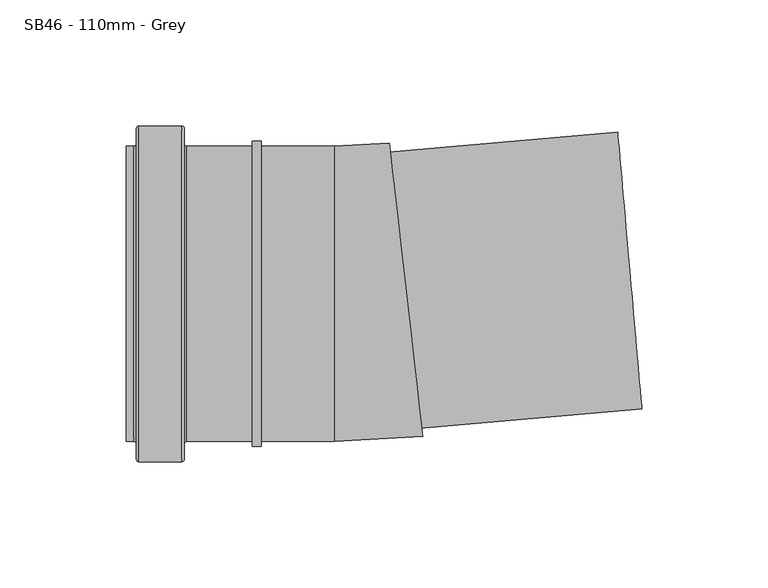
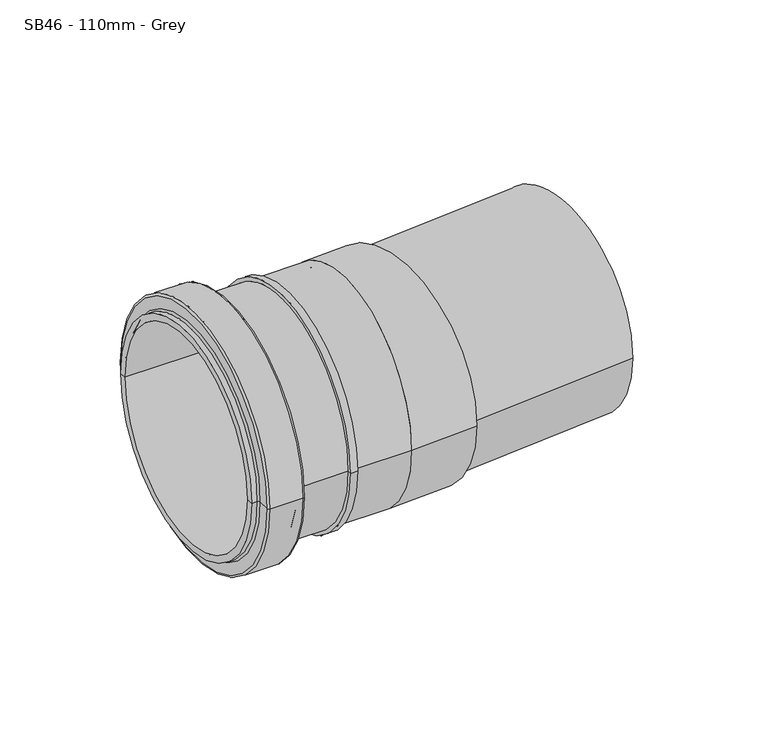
"""IFC4 building model written with IfcOpenShell, lengths in millimetres: pipe fitting geometry, MarleyPlumbingAndDrainage_PipeFitting_Bend_(5-14) : SB46 - 110mm - Grey."""

from ifc_helpers import new_model, si_unit, point, frame, origin, place, context, project, spatial, polyline, circle_curve, ellipse_curve, trimmed, source, transform, mapped, element, save
from ifc_brep_helpers import plane_surface, cylinder_surface, revolved_surface, advanced_brep


def sb46_110mm_grey_d59ce767(model_context):
    return source(origin(), model_context, "Body", "AdvancedBrep", [
        advanced_brep(
        [(-108.1820238, 55.0, 0.0), (-108.1820238, -55.0, 0.0), (-108.1820238, -58.5, 0.0), (-108.1820238, 58.5, 0.0), (-25.6820238, 55.0, 0.0), (-25.6820238, -55.0, 0.0), (-25.6820238, 58.5, 0.0), (-25.6820238, -58.5, 0.0), (-54.6820238, 58.5, 0.0), (-54.6820238, -58.5, 0.0), (-54.6820238, 60.5, 0.0), (-54.6820238, -60.5, 0.0), (-58.1820238, 60.5, 0.0), (-58.1820238, -60.5, 0.0), (-58.1820238, 58.5, 0.0), (-58.1820238, -58.5, 0.0), (-84.1820238, 58.5, 0.0), (-84.1820238, -58.5, 0.0), (-85.1820238, 59.5, 0.0), (-85.1820238, -59.5, 0.0), (-85.1820238, 65.5, 0.0), (-85.1820238, -65.5, 0.0), (-86.1820238, 66.5, 0.0), (-86.1820238, -66.5, 0.0), (-103.1820238, 66.5, 0.0), (-103.1820238, -66.5, 0.0), (-104.1820238, 65.5, 0.0), (-104.1820238, -65.5, 0.0), (-104.1820238, 59.5, 0.0), (-104.1820238, -59.5, 0.0), (-105.1820238, 58.5, 0.0), (-105.1820238, -58.5, 0.0)],
        [
            (0, 1, circle_curve(frame((-108.1820238, 0.0, 0.0), z_axis=(1.0, 0.0, 0.0), x_axis=(0.0, -1.0, 0.0)), 55.0)),
            (1, 2),
            (2, 3, circle_curve(frame((-108.1820238, 0.0, 0.0), z_axis=(-1.0, 0.0, 0.0), x_axis=(0.0, -1.0, 0.0)), 58.5)),
            (3, 0),
            (1, 0, circle_curve(frame((-108.1820238, 0.0, 0.0), z_axis=(1.0, 0.0, 0.0), x_axis=(0.0, -1.0, 0.0)), 55.0)),
            (3, 2, circle_curve(frame((-108.1820238, 0.0, 0.0), z_axis=(-1.0, 0.0, 0.0), x_axis=(0.0, -1.0, 0.0)), 58.5)),
            (4, 5, circle_curve(frame((-25.6820238, 0.0, 0.0), z_axis=(1.0, 0.0, 0.0), x_axis=(0.0, -1.0, 0.0)), 55.0)),
            (5, 1),
            (0, 4),
            (5, 4, circle_curve(frame((-25.6820238, 0.0, 0.0), z_axis=(1.0, 0.0, 0.0), x_axis=(0.0, -1.0, 0.0)), 55.0)),
            (6, 7, circle_curve(frame((-25.6820238, 0.0, 0.0), z_axis=(1.0, 0.0, 0.0), x_axis=(0.0, -1.0, 0.0)), 58.5)),
            (7, 5),
            (4, 6),
            (7, 6, circle_curve(frame((-25.6820238, 0.0, 0.0), z_axis=(1.0, 0.0, 0.0), x_axis=(0.0, -1.0, 0.0)), 58.5)),
            (8, 9, circle_curve(frame((-54.6820238, 0.0, 0.0), z_axis=(1.0, 0.0, 0.0), x_axis=(0.0, -1.0, 0.0)), 58.5)),
            (9, 7),
            (6, 8),
            (9, 8, circle_curve(frame((-54.6820238, 0.0, 0.0), z_axis=(1.0, 0.0, 0.0), x_axis=(0.0, -1.0, 0.0)), 58.5)),
            (10, 11, circle_curve(frame((-54.6820238, 0.0, 0.0), z_axis=(1.0, 0.0, 0.0), x_axis=(0.0, -1.0, 0.0)), 60.5)),
            (11, 9),
            (8, 10),
            (11, 10, circle_curve(frame((-54.6820238, 0.0, 0.0), z_axis=(1.0, 0.0, 0.0), x_axis=(0.0, -1.0, 0.0)), 60.5)),
            (12, 13, circle_curve(frame((-58.1820238, 0.0, 0.0), z_axis=(1.0, 0.0, 0.0), x_axis=(0.0, -1.0, 0.0)), 60.5)),
            (13, 11),
            (10, 12),
            (13, 12, circle_curve(frame((-58.1820238, 0.0, 0.0), z_axis=(1.0, 0.0, 0.0), x_axis=(0.0, -1.0, 0.0)), 60.5)),
            (14, 15, circle_curve(frame((-58.1820238, 0.0, 0.0), z_axis=(1.0, 0.0, 0.0), x_axis=(0.0, -1.0, 0.0)), 58.5)),
            (15, 13),
            (12, 14),
            (15, 14, circle_curve(frame((-58.1820238, 0.0, 0.0), z_axis=(1.0, 0.0, 0.0), x_axis=(0.0, -1.0, 0.0)), 58.5)),
            (16, 17, circle_curve(frame((-84.1820238, 0.0, 0.0), z_axis=(1.0, 0.0, 0.0), x_axis=(0.0, -1.0, 0.0)), 58.5)),
            (17, 15),
            (14, 16),
            (17, 16, circle_curve(frame((-84.1820238, 0.0, 0.0), z_axis=(1.0, 0.0, 0.0), x_axis=(0.0, -1.0, 0.0)), 58.5)),
            (18, 19, circle_curve(frame((-85.1820238, 0.0, 0.0), z_axis=(1.0, 0.0, 0.0), x_axis=(0.0, -1.0, 0.0)), 59.5)),
            (19, 17, circle_curve(frame((-84.1820238, -59.5, 0.0), z_axis=(0.0, 0.0, -1.0), x_axis=(0.0, -1.0, 0.0)), 1.0)),
            (16, 18, circle_curve(frame((-84.1820238, 59.5, 0.0), z_axis=(0.0, 0.0, -1.0), x_axis=(0.0, 1.0, 0.0)), 1.0)),
            (19, 18, circle_curve(frame((-85.1820238, 0.0, 0.0), z_axis=(1.0, 0.0, 0.0), x_axis=(0.0, -1.0, 0.0)), 59.5)),
            (20, 21, circle_curve(frame((-85.1820238, 0.0, 0.0), z_axis=(1.0, 0.0, 0.0), x_axis=(0.0, -1.0, 0.0)), 65.5)),
            (21, 19),
            (18, 20),
            (21, 20, circle_curve(frame((-85.1820238, 0.0, 0.0), z_axis=(1.0, 0.0, 0.0), x_axis=(0.0, -1.0, 0.0)), 65.5)),
            (22, 23, circle_curve(frame((-86.1820238, 0.0, 0.0), z_axis=(1.0, 0.0, 0.0), x_axis=(0.0, -1.0, 0.0)), 66.5)),
            (23, 21, circle_curve(frame((-86.1820238, -65.5, 0.0), z_axis=(0.0, 0.0, 1.0), x_axis=(0.0, -1.0, 0.0)), 1.0)),
            (20, 22, circle_curve(frame((-86.1820238, 65.5, 0.0), z_axis=(0.0, 0.0, 1.0), x_axis=(0.0, 1.0, 0.0)), 1.0)),
            (23, 22, circle_curve(frame((-86.1820238, 0.0, 0.0), z_axis=(1.0, 0.0, 0.0), x_axis=(0.0, -1.0, 0.0)), 66.5)),
            (24, 25, circle_curve(frame((-103.1820238, 0.0, 0.0), z_axis=(1.0, 0.0, 0.0), x_axis=(0.0, -1.0, 0.0)), 66.5)),
            (25, 23),
            (22, 24),
            (25, 24, circle_curve(frame((-103.1820238, 0.0, 0.0), z_axis=(1.0, 0.0, 0.0), x_axis=(0.0, -1.0, 0.0)), 66.5)),
            (26, 27, circle_curve(frame((-104.1820238, 0.0, 0.0), z_axis=(1.0, 0.0, 0.0), x_axis=(0.0, -1.0, 0.0)), 65.5)),
            (27, 25, circle_curve(frame((-103.1820238, -65.5, 0.0), z_axis=(0.0, 0.0, 1.0), x_axis=(0.0, -1.0, 0.0)), 1.0)),
            (24, 26, circle_curve(frame((-103.1820238, 65.5, 0.0), z_axis=(0.0, 0.0, 1.0), x_axis=(0.0, 1.0, 0.0)), 1.0)),
            (27, 26, circle_curve(frame((-104.1820238, 0.0, 0.0), z_axis=(1.0, 0.0, 0.0), x_axis=(0.0, -1.0, 0.0)), 65.5)),
            (28, 29, circle_curve(frame((-104.1820238, 0.0, 0.0), z_axis=(1.0, 0.0, 0.0), x_axis=(0.0, -1.0, 0.0)), 59.5)),
            (29, 27),
            (26, 28),
            (29, 28, circle_curve(frame((-104.1820238, 0.0, 0.0), z_axis=(1.0, 0.0, 0.0), x_axis=(0.0, -1.0, 0.0)), 59.5)),
            (30, 31, circle_curve(frame((-105.1820238, 0.0, 0.0), z_axis=(1.0, 0.0, 0.0), x_axis=(0.0, -1.0, 0.0)), 58.5)),
            (31, 29, circle_curve(frame((-105.1820238, -59.5, 0.0), z_axis=(0.0, 0.0, -1.0), x_axis=(0.0, -1.0, 0.0)), 1.0)),
            (28, 30, circle_curve(frame((-105.1820238, 59.5, 0.0), z_axis=(0.0, 0.0, -1.0), x_axis=(0.0, 1.0, 0.0)), 1.0)),
            (31, 30, circle_curve(frame((-105.1820238, 0.0, 0.0), z_axis=(1.0, 0.0, 0.0), x_axis=(0.0, -1.0, 0.0)), 58.5)),
            (2, 31),
            (30, 3),
        ],
        [
            plane_surface(frame((-108.1820238, 0.0, 0.0), z_axis=(-1.0, 0.0, 0.0), x_axis=(0.0, -1.0, 0.0))),
            revolved_surface(polyline([(-108.18202380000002, -55.0, 0.0), (-25.682023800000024, -55.0, 0.0)]), (-1958.9431673, 0.0, 0.0), (-1.0, 0.0, 0.0)),
            plane_surface(frame((-25.6820238, 0.0, 0.0), z_axis=(1.0, 0.0, 0.0), x_axis=(0.0, -1.0, 0.0))),
            cylinder_surface(frame((-1958.9431673, 0.0, 0.0), z_axis=(-1.0, 0.0, 0.0), x_axis=(0.0, -1.0, 0.0)), 58.5),
            plane_surface(frame((-54.6820238, 0.0, 0.0), z_axis=(1.0, 0.0, 0.0), x_axis=(0.0, -1.0, 0.0))),
            cylinder_surface(frame((-1958.9431673, 0.0, 0.0), z_axis=(-1.0, 0.0, 0.0), x_axis=(0.0, -1.0, 0.0)), 60.5),
            plane_surface(frame((-58.1820238, 0.0, 0.0), z_axis=(-1.0, 0.0, 0.0), x_axis=(0.0, -1.0, 0.0))),
            revolved_surface(trimmed(ellipse_curve(frame((-84.1820238, -59.5, 0.0), z_axis=(0.0, 0.0, 1.0), x_axis=(0.0, -1.0, 0.0)), 1.0, 1.0), [point((-84.1820238, -58.5, 0.0))], [point((-85.1820238, -59.5, 0.0))], True, "CARTESIAN"), (-1958.9431673, 0.0, 0.0), (-1.0, 0.0, 0.0)),
            plane_surface(frame((-85.1820238, 0.0, 0.0), z_axis=(1.0, 0.0, 0.0), x_axis=(0.0, -1.0, 0.0))),
            revolved_surface(trimmed(ellipse_curve(frame((-86.1820238, -65.5, 0.0), z_axis=(0.0, 0.0, -1.0), x_axis=(0.0, -1.0, 0.0)), 1.0, 1.0), [point((-85.1820238, -65.5, 0.0))], [point((-86.1820238, -66.5, 0.0))], True, "CARTESIAN"), (-1958.9431673, 0.0, 0.0), (-1.0, 0.0, 0.0)),
            cylinder_surface(frame((-1958.9431673, 0.0, 0.0), z_axis=(-1.0, 0.0, 0.0), x_axis=(0.0, -1.0, 0.0)), 66.5),
            revolved_surface(trimmed(ellipse_curve(frame((-103.1820238, -65.5, 0.0), z_axis=(0.0, 0.0, -1.0), x_axis=(0.0, -1.0, 0.0)), 1.0, 1.0), [point((-103.1820238, -66.5, 0.0))], [point((-104.1820238, -65.5, 0.0))], True, "CARTESIAN"), (-1958.9431673, 0.0, 0.0), (-1.0, 0.0, 0.0)),
            plane_surface(frame((-104.1820238, 0.0, 0.0), z_axis=(-1.0, 0.0, 0.0), x_axis=(0.0, -1.0, 0.0))),
            revolved_surface(trimmed(ellipse_curve(frame((-105.1820238, -59.5, 0.0), z_axis=(0.0, 0.0, 1.0), x_axis=(0.0, -1.0, 0.0)), 1.0, 1.0), [point((-104.1820238, -59.5, 0.0))], [point((-105.1820238, -58.5, 0.0))], True, "CARTESIAN"), (-1958.9431673, 0.0, 0.0), (-1.0, 0.0, 0.0)),
        ],
        [
            (0, [[1, 2, 3, 4]]),
            (0, [[5, -4, 6, -2]]),
            (1, [[7, 8, -1, 9]]),
            (1, [[10, -9, -5, -8]]),
            (2, [[11, 12, -7, 13]]),
            (2, [[14, -13, -10, -12]]),
            (3, [[15, 16, -11, 17]]),
            (3, [[18, -17, -14, -16]]),
            (4, [[19, 20, -15, 21]]),
            (4, [[22, -21, -18, -20]]),
            (5, [[23, 24, -19, 25]]),
            (5, [[26, -25, -22, -24]]),
            (6, [[27, 28, -23, 29]]),
            (6, [[30, -29, -26, -28]]),
            (3, [[31, 32, -27, 33]]),
            (3, [[34, -33, -30, -32]]),
            (7, [[35, 36, -31, 37]]),
            (7, [[38, -37, -34, -36]]),
            (8, [[39, 40, -35, 41]]),
            (8, [[42, -41, -38, -40]]),
            (9, [[43, 44, -39, 45]]),
            (9, [[46, -45, -42, -44]]),
            (10, [[47, 48, -43, 49]]),
            (10, [[50, -49, -46, -48]]),
            (11, [[51, 52, -47, 53]]),
            (11, [[54, -53, -50, -52]]),
            (12, [[55, 56, -51, 57]]),
            (12, [[58, -57, -54, -56]]),
            (13, [[59, 60, -55, 61]]),
            (13, [[62, -61, -58, -60]]),
            (3, [[-3, 63, -59, 64]]),
            (3, [[-6, -64, -62, -63]]),
        ],
    ),
        advanced_brep(
        [(-25.6820238, -58.5, 0.0), (-25.6820238, 58.5, 0.0), (9.2411676, -56.5169175, 0.0), (-4.0036084, 59.7309896, 0.0)],
        [
            (0, 1, circle_curve(frame((-25.6820238, 0.0, 0.0), z_axis=(-1.0, 0.0, 0.0), x_axis=(0.0, 1.0, 0.0)), 58.5)),
            (1, 0, circle_curve(frame((-25.6820238, 0.0, 0.0), z_axis=(-1.0, 0.0, 0.0), x_axis=(0.0, 1.0, 0.0)), 58.5)),
            (2, 3, circle_curve(frame((2.6187796, 1.6070361, 0.0), z_axis=(0.9935718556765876, 0.11320321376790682, 0.0), x_axis=(-0.11320321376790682, 0.9935718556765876, 0.0)), 58.5)),
            (3, 2, circle_curve(frame((2.6187796, 1.6070361, 0.0), z_axis=(0.9935718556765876, 0.11320321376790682, 0.0), x_axis=(-0.11320321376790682, 0.9935718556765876, 0.0)), 58.5)),
            (3, 1, circle_curve(frame((-25.6820238, 250.0, 0.0), z_axis=(0.0, 0.0, -1.0), x_axis=(0.0, -1.0, 0.0)), 191.5)),
            (0, 2, circle_curve(frame((-25.6820238, 250.0, 0.0), z_axis=(0.0, 0.0, 1.0), x_axis=(0.0, -1.0, 0.0)), 308.5)),
        ],
        [
            plane_surface(frame((-25.6820238, 0.0, 0.0), z_axis=(-1.0, 0.0, 0.0), x_axis=(0.0, 0.0, 1.0))),
            plane_surface(frame((2.6187796, 1.6070361, 0.0), z_axis=(0.9935718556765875, 0.11320321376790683, 0.0), x_axis=(0.0, 0.0, 1.0))),
            revolved_surface(trimmed(ellipse_curve(frame((-25.6820238, 0.0, 0.0), z_axis=(-1.0, 0.0, 0.0), x_axis=(0.0, 1.0, 0.0)), 58.5, 58.5), [point((-25.6820238, -58.5, 0.0))], [point((-25.6820238, 58.5, 0.0))], True, "CARTESIAN"), (-25.6820238, 250.0, 0.0), (0.0, 0.0, 1.0)),
            revolved_surface(trimmed(ellipse_curve(frame((-25.6820238, 0.0, 0.0), z_axis=(-1.0, 0.0, 0.0), x_axis=(0.0, 1.0, 0.0)), 58.5, 58.5), [point((-25.6820238, 58.5, 0.0))], [point((-25.6820238, -58.5, 0.0))], True, "CARTESIAN"), (-25.6820238, 250.0, 0.0), (0.0, 0.0, 1.0)),
        ],
        [
            (0, [[1, 2]]),
            (1, [[3, 4]]),
            (2, [[5, -1, 6, -4]]),
            (3, [[-6, -2, -5, -3]]),
        ],
    ),
        advanced_brep(
        [(-25.6820238, -55.0, 0.0), (-25.6820238, 55.0, 0.0), (-8.686654, 55.7420339, 0.0), (0.9004777, -53.8393829, 0.0), (96.0370714, -45.5160095, 0.0), (86.4499397, 64.0654073, 0.0)],
        [
            (0, 1, circle_curve(frame((-25.6820238, 0.0, 0.0), z_axis=(-1.0, 0.0, 0.0), x_axis=(0.0, 1.0, 0.0)), 55.0)),
            (1, 0, circle_curve(frame((-25.6820238, 0.0, 0.0), z_axis=(-1.0, 0.0, 0.0), x_axis=(0.0, 1.0, 0.0)), 55.0)),
            (2, 1, circle_curve(frame((-25.6820238, 250.0, 0.0), z_axis=(0.0, 0.0, -1.0), x_axis=(0.0, -1.0, 0.0)), 195.0)),
            (0, 3, circle_curve(frame((-25.6820238, 250.0, 0.0), z_axis=(0.0, 0.0, 1.0), x_axis=(0.0, -1.0, 0.0)), 305.0)),
            (3, 2, circle_curve(frame((-3.8930881, 0.9513255, 0.0), z_axis=(-0.9961946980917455, -0.08715574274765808, 0.0), x_axis=(-0.08715574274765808, 0.9961946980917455, 0.0)), 55.0)),
            (2, 3, circle_curve(frame((-3.8930881, 0.9513255, 0.0), z_axis=(-0.9961946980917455, -0.08715574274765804, 0.0), x_axis=(-0.08715574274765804, 0.9961946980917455, 0.0)), 55.0)),
            (4, 5, circle_curve(frame((91.2435056, 9.2746989, 0.0), z_axis=(0.9961946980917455, 0.08715574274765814, 0.0), x_axis=(-0.08715574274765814, 0.9961946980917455, 0.0)), 55.0)),
            (5, 4, circle_curve(frame((91.2435056, 9.2746989, 0.0), z_axis=(0.9961946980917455, 0.08715574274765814, 0.0), x_axis=(-0.08715574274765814, 0.9961946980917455, 0.0)), 55.0)),
            (3, 4),
            (5, 2),
        ],
        [
            plane_surface(frame((-25.6820238, 0.0, 0.0), z_axis=(-1.0, 0.0, 0.0), x_axis=(0.0, 0.0, 1.0))),
            revolved_surface(trimmed(ellipse_curve(frame((-25.6820238, 0.0, 0.0), z_axis=(-1.0, 0.0, 0.0), x_axis=(0.0, 1.0, 0.0)), 55.0, 55.0), [point((-25.6820238, -55.0, 0.0))], [point((-25.6820238, 55.0, 0.0))], True, "CARTESIAN"), (-25.6820238, 250.0, 0.0), (0.0, 0.0, 1.0)),
            revolved_surface(trimmed(ellipse_curve(frame((-25.6820238, 0.0, 0.0), z_axis=(-1.0, 0.0, 0.0), x_axis=(0.0, 1.0, 0.0)), 55.0, 55.0), [point((-25.6820238, 55.0, 0.0))], [point((-25.6820238, -55.0, 0.0))], True, "CARTESIAN"), (-25.6820238, 250.0, 0.0), (0.0, 0.0, 1.0)),
            plane_surface(frame((91.2435056, 9.2746989, 0.0), z_axis=(0.9961946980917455, 0.08715574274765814, 0.0), x_axis=(0.0, 0.0, 1.0))),
            cylinder_surface(frame((-3.8930881, 0.9513255, 0.0), z_axis=(-0.9961946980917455, -0.08715574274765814, 0.0), x_axis=(-0.08715574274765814, 0.9961946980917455, 0.0)), 55.0),
        ],
        [
            (0, [[1, 2]]),
            (1, [[3, -1, 4, 5]]),
            (2, [[-4, -2, -3, 6]]),
            (3, [[7, 8]]),
            (4, [[-5, 9, -8, 10]]),
            (4, [[-6, -10, -7, -9]]),
        ],
    ),
    ])


if __name__ == "__main__":
    model = new_model("IFC4")
    model_context = context("Model", 3, world=origin())
    ifc_project = project(units=[si_unit("LENGTHUNIT", "METRE", prefix="MILLI")], contexts=[model_context])
    site = spatial("IfcSite", under=ifc_project)
    building = spatial("IfcBuilding", under=site)
    placement = place(None, origin())
    sb46_110mm_grey_shape = sb46_110mm_grey_d59ce767(model_context)
    element("IfcPipeFitting", 1, ObjectType="MarleyPlumbingAndDrainage_PipeFitting_Bend_(5-14) : SB46 - 110mm - Grey", at=placement, inside=building, context=model_context, shape_type="MappedRepresentation", body=[
        mapped(sb46_110mm_grey_shape, transform((0.0, 0.0, 0.0), x_axis=(1.0, 0.0, 0.0), y_axis=(0.0, 1.0, 0.0), z_axis=(0.0, 0.0, 1.0))),
    ])
    save(model, "model.ifc")
